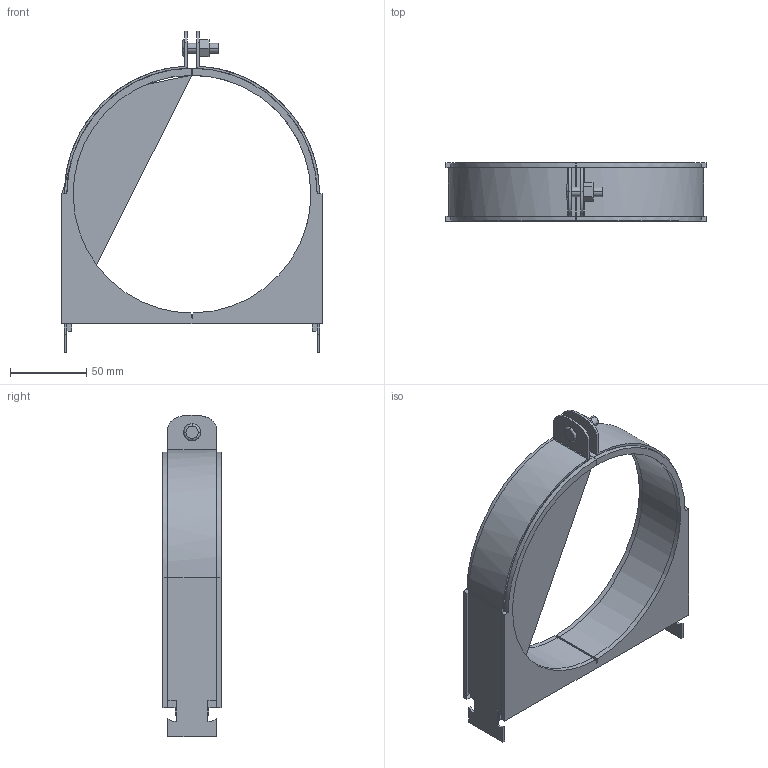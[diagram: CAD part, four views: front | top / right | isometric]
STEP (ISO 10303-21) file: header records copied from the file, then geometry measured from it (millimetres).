
FILE_DESCRIPTION(('TurboCAD Mac Pro'),'Build 980');
FILE_NAME('098N106.stp',' ',(''),(''),'ACIS Interop','IMSI','TurboCAD Mac Pro BY IMSI, INCORPORATED');
FILE_SCHEMA(('automotive_design'));
Length unit declared in the file: inch
Products named in the file (3): 1; 2; 3
Bounding box: 170.05 x 38.1 x 210.56 mm (x, y, z)
Volume: 25701.1 mm3; surface area: 89059.5 mm2
Topology: 2 solids, 3 shells, 146 faces, 388 edges, 252 vertices
Faces by surface type: plane 100, bspline 46
Entity records: 7102 total; most frequent: CARTESIAN_POINT 1743, ORIENTED_EDGE 776, DIRECTION 494, EDGE_CURVE 388, STYLED_ITEM 317, PRESENTATION_STYLE_ASSIGNMENT 317, COLOUR_RGB 317, LINE 280
